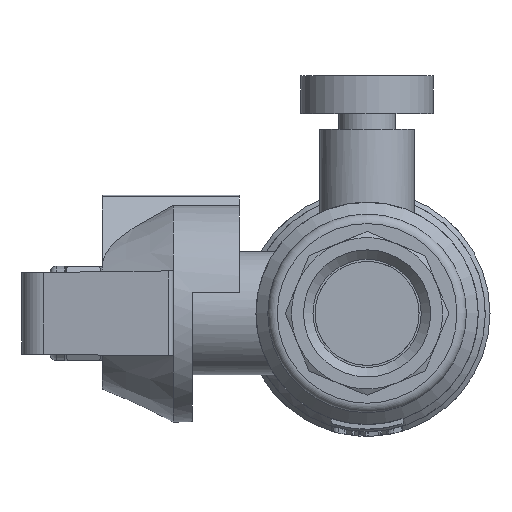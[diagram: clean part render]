
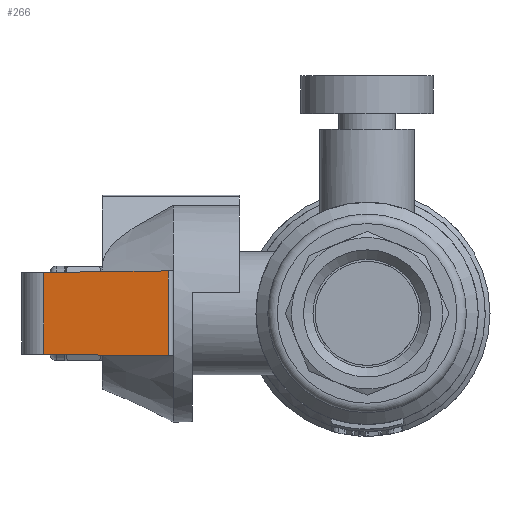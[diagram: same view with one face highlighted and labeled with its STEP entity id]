
A CAD part, left-side view. The second image highlights one B-rep face of the part: STEP entity #266.
In plain terms, the highlighted planar face has unit normal (-0.997, 0.083, 0).
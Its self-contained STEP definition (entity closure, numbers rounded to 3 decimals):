
#266=ADVANCED_FACE('',(#1691),#1693,.F.);
#1691=FACE_BOUND('',#1692,.T.);
#1692=EDGE_LOOP('',(#3199,#3200,#3201,#3202));
#1693=PLANE('',#1694);
#1694=AXIS2_PLACEMENT_3D('',#1695,#1696,#1697);
#1695=CARTESIAN_POINT('',(-24.998,21.041,-10.));
#1696=DIRECTION('',(0.997,-0.083,0.));
#1697=DIRECTION('',(0.083,0.997,0.));
#3199=ORIENTED_EDGE('',*,*,#4032,.F.);
#3200=ORIENTED_EDGE('',*,*,#4031,.T.);
#3201=ORIENTED_EDGE('',*,*,#4028,.F.);
#3202=ORIENTED_EDGE('',*,*,#4058,.F.);
#4028=EDGE_CURVE('',#5001,#5003,#5004,.F.);
#4031=EDGE_CURVE('',#5006,#5003,#5008,.T.);
#4032=EDGE_CURVE('',#5006,#5009,#5010,.F.);
#4058=EDGE_CURVE('',#5009,#5001,#5049,.T.);
#5001=VERTEX_POINT('',#10175);
#5003=VERTEX_POINT('',#10180);
#5004=LINE('',#10181,#10182);
#5006=VERTEX_POINT('',#10188);
#5008=LINE('',#10193,#10194);
#5009=VERTEX_POINT('',#10196);
#5010=LINE('',#10197,#10198);
#5049=LINE('',#10487,#10488);
#10175=CARTESIAN_POINT('',(-23.907,34.206,4.329));
#10180=CARTESIAN_POINT('',(-24.998,21.041,4.493));
#10181=CARTESIAN_POINT('',(-24.998,21.041,4.493));
#10182=VECTOR('',#10183,1.);
#10183=DIRECTION('',(0.083,0.997,-0.012));
#10188=CARTESIAN_POINT('',(-24.998,21.041,-4.493));
#10193=CARTESIAN_POINT('',(-24.998,21.041,-4.493));
#10194=VECTOR('',#10195,1.);
#10195=DIRECTION('',(0.,0.,1.));
#10196=CARTESIAN_POINT('',(-23.907,34.206,-4.329));
#10197=CARTESIAN_POINT('',(-23.907,34.206,-4.329));
#10198=VECTOR('',#10199,1.);
#10199=DIRECTION('',(-0.083,-0.997,-0.012));
#10487=CARTESIAN_POINT('',(-23.907,34.206,-4.329));
#10488=VECTOR('',#10489,1.);
#10489=DIRECTION('',(0.,0.,1.));
